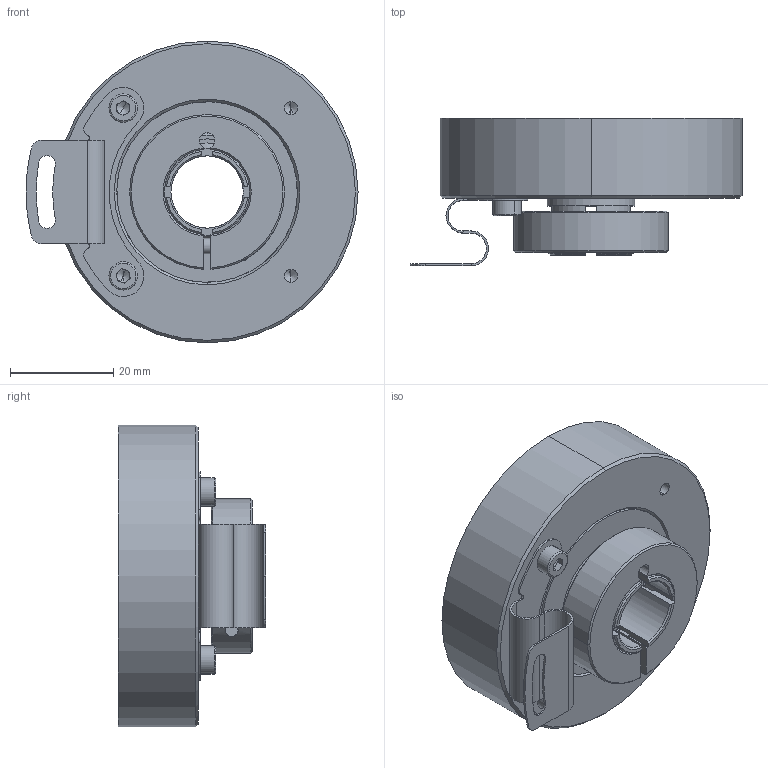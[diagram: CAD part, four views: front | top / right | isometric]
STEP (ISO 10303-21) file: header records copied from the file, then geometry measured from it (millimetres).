
FILE_DESCRIPTION (( 'STEP AP214' ), '1' );
FILE_NAME ('drawing-ucd-hets-q5b-n.STEP', '2017-02-01T12:58:19', ( '' ), ( '' ), 'SwSTEP 2.0', 'SolidWorks 2015', '' );
FILE_SCHEMA (( 'AUTOMOTIVE_DESIGN' ));
Length unit declared in the file: millimetre
Products named in the file (1): drawing-ucd-hets-q5b-n
Bounding box: 64.35 x 28.6 x 58.5 mm (x, y, z)
Volume: 40180.9 mm3; surface area: 26506.9 mm2
Topology: 26 solids, 26 shells, 603 faces, 1472 edges, 901 vertices
Faces by surface type: plane 219, bspline 146, cylinder 132, cone 94, torus 12
Entity records: 30173 total; most frequent: CARTESIAN_POINT 9953, ORIENTED_EDGE 2824, DIRECTION 2555, EDGE_CURVE 1412, AXIS2_PLACEMENT_3D 923, VERTEX_POINT 901, LINE 709, VECTOR 709
